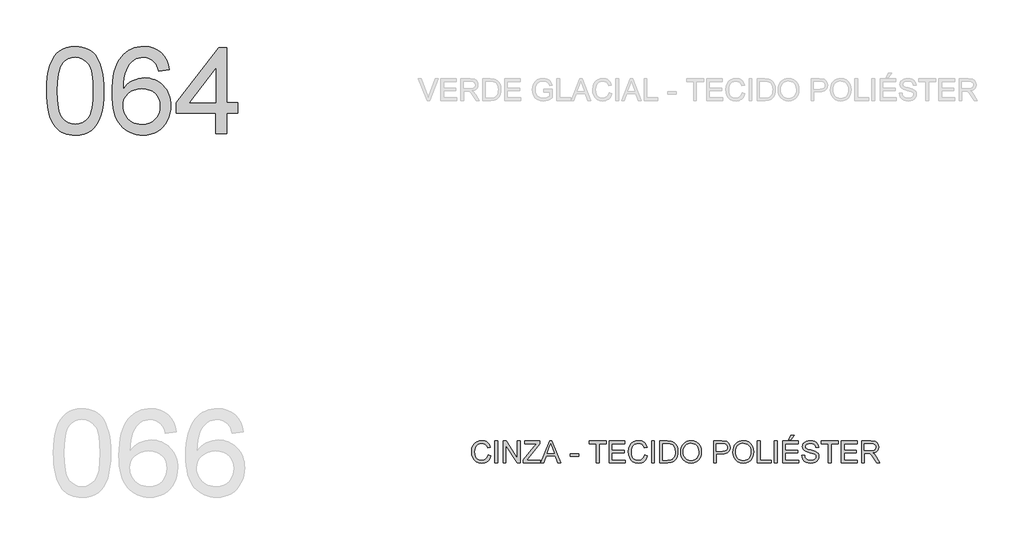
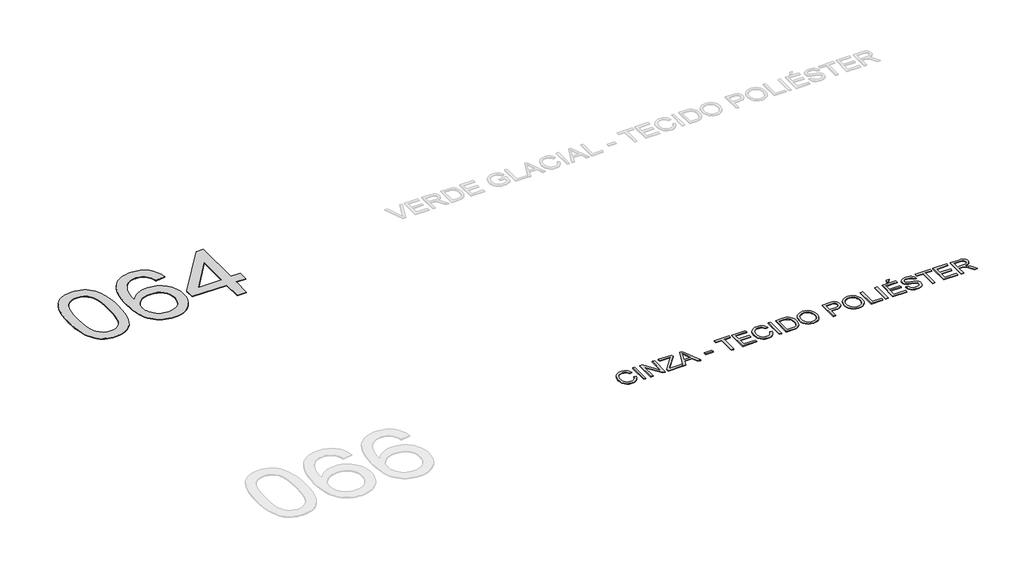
# One storey, part 9 of 67: 2 proxies.
"""IFC4 building model written with IfcOpenShell, lengths in millimetres."""

from ifc_helpers import new_model, si_unit, origin, origin_with_axes, place, context, project, spatial, polyline, outline, extrude, element, save

model = new_model("IFC4")

# Units and contexts
model_context = context("Model", 3, world=origin())
ifc_project = project(units=[si_unit("LENGTHUNIT", "METRE", prefix="MILLI")], contexts=[model_context])

# Site, building, storey
site = spatial("IfcSite", under=ifc_project)
building = spatial("IfcBuilding", under=site)
storey = spatial("IfcBuildingStorey", under=building, Name="Marelli - Linha COLAB - Planta Baixa", Elevation=0.0)

# Proxies
placement = place(None, origin())
element("IfcBuildingElementProxy", 1, Name="1200mm Arial", ObjectType="1200mm Arial", at=placement, inside=storey, context=model_context, shape_type="SweptSolid", body=[
    extrude(outline(polyline([(-25275.30917, -79895.792664), (-25272.540858, -79794.4319773), (-25264.2359219, -79702.8385576), (-25250.3943618, -79621.0124048), (-25231.0161777, -79548.953519), (-25206.1841431, -79486.073289), (-25175.9810313, -79431.7831035), (-25140.4068423, -79386.0829627), (-25099.4615763, -79348.9728664), (-25053.0072773, -79320.2596767), (-25000.9059898, -79299.7502555), (-24943.1577136, -79287.4446027), (-24879.7624488, -79283.3427185), (-24832.1217304, -79285.7707396), (-24786.9090332, -79293.0548031), (-24744.1243571, -79305.194909), (-24703.7677023, -79322.1910572), (-24666.8139558, -79343.7581391), (-24634.2380052, -79369.6110463), (-24606.0398502, -79399.7497788), (-24582.2194911, -79434.1743365), (-24561.5813111, -79472.7467637), (-24542.929694, -79515.3291046), (-24511.586148, -79612.5235278), (-24499.611589, -79669.6831928), (-24491.0583327, -79735.9479371), (-24485.9263788, -79811.3177609), (-24484.2157275, -79895.792664), (-24486.9564484, -79996.5095573), (-24495.178611, -80087.6431245), (-24508.8822153, -80169.1933658), (-24528.0672614, -80241.1602811), (-24552.706158, -80304.0681023), (-24582.771314, -80358.4410612), (-24618.2627295, -80404.2791578), (-24659.1804044, -80441.5823921), (-24705.6898857, -80470.4887199), (-24757.9567202, -80491.1360968), (-24815.9809078, -80503.524523), (-24879.7624488, -80507.6539984), (-24922.4367602, -80505.8605737), (-24962.7566269, -80500.4802995), (-25000.7220488, -80491.5131759), (-25036.3330259, -80478.9592028), (-25069.5895583, -80462.8183803), (-25100.4916459, -80443.0907083), (-25129.0392887, -80419.7761868), (-25155.2324867, -80392.8748159), (-25183.3754594, -80350.2786794), (-25207.7660357, -80302.0999336), (-25228.4042156, -80248.3385785), (-25245.2899992, -80188.9946142), (-25258.4233864, -80124.0680406), (-25267.8043773, -80053.5588577), (-25273.4329718, -79977.4670655), (-25275.30917, -79895.792664)]), holes=[polyline([(-25124.6247047, -79895.4983584), (-25120.2101208, -80026.4919399), (-25106.966369, -80132.5247279), (-25097.0335551, -80176.1808245), (-25084.8934493, -80213.5967226), (-25070.5460515, -80244.7724225), (-25053.9913617, -80269.7079239), (-25016.614551, -80307.884878), (-24975.1174619, -80335.1541309), (-24929.5000945, -80351.5156826), (-24879.7624488, -80356.9695332), (-24830.024803, -80351.4972885), (-24784.4074356, -80335.0805545), (-24742.9103465, -80307.7193311), (-24705.5335358, -80269.4136183), (-24688.9788461, -80244.418336), (-24674.6314482, -80213.2104465), (-24662.4913424, -80175.7899498), (-24652.5585285, -80132.1568459), (-24639.3147767, -80026.2528166), (-24634.9001928, -79895.4983584), (-24639.1676239, -79767.9720648), (-24651.9699173, -79663.8062779), (-24661.5716374, -79620.4835744), (-24673.3070731, -79583.0009976), (-24687.1762243, -79551.3585475), (-24703.1790911, -79525.5562241), (-24739.9305024, -79485.5122689), (-24781.905838, -79456.9094438), (-24829.105098, -79439.7477487), (-24881.5282823, -79434.0271837), (-24931.0084107, -79439.067167), (-24975.8532259, -79454.187117), (-25016.062728, -79479.3870337), (-25051.6369169, -79514.666917), (-25068.7434297, -79543.2145599), (-25083.5690741, -79577.2068562), (-25096.1138501, -79616.6438061), (-25106.3777578, -79661.5254095), (-25120.062968, -79767.6225769), (-25124.6247047, -79895.4983584)])]), origin_with_axes(), (0.0, 0.0, 1.0), 10.0),
    extrude(outline(polyline([(-23580.1089362, -79603.5472071), (-23730.7934014, -79622.3827652), (-23741.8666495, -79582.0812927), (-23755.0736131, -79547.7027202), (-23770.4142923, -79519.2470479), (-23787.8886871, -79496.7142757), (-23820.2806967, -79469.2886729), (-23856.2411618, -79449.6989567), (-23895.7700822, -79437.9451269), (-23938.8674579, -79434.0271837), (-23974.4048586, -79436.3080521), (-24008.9121898, -79443.1506572), (-24042.3894513, -79454.554999), (-24074.8366433, -79470.5210776), (-24104.4419469, -79496.6315022), (-24131.4536824, -79528.1681863), (-24155.8718498, -79565.1311297), (-24177.6964492, -79607.5203326), (-24195.7686522, -79658.1316981), (-24208.9296306, -79719.7611293), (-24217.1793843, -79792.4086263), (-24220.5179134, -79876.0741891), (-24191.7955266, -79838.2099347), (-24160.0749016, -79805.5512106), (-24125.3560383, -79778.0980167), (-24087.6389367, -79755.8503531), (-24047.9352724, -79738.6610669), (-24007.2567208, -79726.3830053), (-23965.6032819, -79719.0161683), (-23922.9749557, -79716.560556), (-23886.0763916, -79718.2390176), (-23850.575779, -79723.2744024), (-23816.4731181, -79731.6667104), (-23783.7684087, -79743.4159416), (-23752.4616509, -79758.5220961), (-23722.5528447, -79776.9851737), (-23694.0419901, -79798.8051745), (-23666.9290871, -79823.9820986), (-23642.1660303, -79851.81697), (-23620.7047144, -79881.6108131), (-23602.5451394, -79913.3636278), (-23587.6873053, -79947.0754142), (-23576.1312121, -79982.7461721), (-23567.8768599, -80020.3759017), (-23562.9242485, -80059.9646029), (-23561.273378, -80101.5122757), (-23564.3819809, -80156.4462547), (-23573.7077895, -80209.4120649), (-23589.2508038, -80260.4097065), (-23611.0110238, -80309.4391794), (-23638.2158973, -80354.6702707), (-23670.0928722, -80394.2727675), (-23706.6419484, -80428.2466698), (-23747.863126, -80456.5919775), (-23792.8734881, -80478.9316116), (-23840.790118, -80494.8884932), (-23891.6130156, -80504.4626221), (-23945.342181, -80507.6539984), (-23991.3435252, -80505.5386769), (-24035.1697672, -80499.1927125), (-24076.8209068, -80488.6161052), (-24116.2969442, -80473.8088549), (-24153.5978792, -80454.7709616), (-24188.723712, -80431.5024254), (-24221.6744424, -80404.0032463), (-24252.4500706, -80372.2734242), (-24280.2826428, -80335.6875598), (-24304.4042053, -80293.6202536), (-24324.8147583, -80246.0715057), (-24341.5143016, -80193.0413161), (-24354.5028353, -80134.5296848), (-24363.7803594, -80070.5366117), (-24369.3468738, -80001.062097), (-24371.2023786, -79926.1061404), (-24369.1422394, -79842.1784618), (-24362.9618219, -79764.1828803), (-24352.6611261, -79692.1193959), (-24338.2401519, -79625.9880088), (-24319.6988993, -79565.7887188), (-24297.0373684, -79511.521526), (-24270.2555591, -79463.1864303), (-24239.3534716, -79420.7834319), (-24209.3388993, -79388.5707647), (-24176.8319265, -79360.6531198), (-24141.8325532, -79337.0304971), (-24104.3407793, -79317.7028968), (-24064.356605, -79302.6703188), (-24021.8800301, -79291.9327631), (-23976.9110547, -79285.4902296), (-23929.4496788, -79283.3427185), (-23860.0487404, -79288.6586133), (-23797.2328897, -79304.6062978), (-23741.0021268, -79331.1857719), (-23691.3564515, -79368.3970358), (-23649.6386333, -79414.9892904), (-23617.1914413, -79469.7117372), (-23594.0148756, -79532.5643761), (-23580.1089362, -79603.5472071)]), holes=[polyline([(-24220.5179134, -80099.157831), (-24218.3382126, -80132.9202011), (-24211.7991101, -80165.9284131), (-24200.900606, -80198.182467), (-24185.6427003, -80229.6823629), (-24166.7703539, -80258.9473756), (-24145.028528, -80284.4967801), (-24120.4172225, -80306.3305766), (-24092.9364375, -80324.4487648), (-24062.7609168, -80338.676601), (-24030.0654045, -80348.8393411), (-23994.8499005, -80354.9369852), (-23957.1144049, -80356.9695332), (-23904.7372058, -80352.7572843), (-23857.6759016, -80340.1205378), (-23815.9304922, -80319.0592936), (-23779.5009776, -80289.5735517), (-23749.9508563, -80252.8589286), (-23728.8436268, -80210.1110407), (-23716.1792892, -80161.3298882), (-23711.9578433, -80106.5154709), (-23716.1241069, -80053.8439662), (-23728.6228976, -80007.0769676), (-23749.4542156, -79966.214475), (-23778.6180608, -79931.2564884), (-23815.15794, -79903.2514715), (-23858.1173599, -79883.247888), (-23907.4963208, -79871.2457379), (-23963.2948224, -79867.2450212), (-24014.9730456, -79871.2457379), (-24062.5861729, -79883.247888), (-24106.134204, -79903.2514715), (-24145.6171392, -79931.2564884), (-24178.3862279, -79965.7546225), (-24201.7927198, -80005.2375576), (-24215.836615, -80049.7052938), (-24220.5179134, -80099.157831)])]), origin_with_axes(), (0.0, 0.0, 1.0), 10.0),
    extrude(outline(polyline([(-22939.699959, -80488.8184403), (-22939.699959, -80206.285068), (-23485.9311454, -80206.285068), (-23485.9311454, -80055.6006027), (-22902.0288427, -79302.1782766), (-22789.0154938, -79302.1782766), (-22789.0154938, -80055.6006027), (-22638.3310285, -80055.6006027), (-22638.3310285, -80206.285068), (-22789.0154938, -80206.285068), (-22789.0154938, -80488.8184403), (-22939.699959, -80488.8184403)]), holes=[polyline([(-22939.699959, -80055.6006027), (-22939.699959, -79590.0091496), (-23300.5186199, -80055.6006027), (-22939.699959, -80055.6006027)])]), origin_with_axes(), (0.0, 0.0, 1.0), 10.0),
])
element("IfcBuildingElementProxy", 2, Name="300mm Arial", ObjectType="300mm Arial", at=placement, inside=storey, context=model_context, shape_type="SweptSolid", body=[
    extrude(outline(polyline([(-19185.6215867, -84923.4390831), (-19147.9504704, -84933.1511677), (-19155.4046793, -84956.5783531), (-19165.3328946, -84977.0486868), (-19177.7351164, -84994.5621691), (-19192.6113446, -85009.1187997), (-19209.6258869, -85020.5622291), (-19228.4430509, -85028.7361071), (-19249.0628367, -85033.640434), (-19271.4852444, -85035.2752096), (-19315.1804283, -85030.3271968), (-19349.8808975, -85015.4831583), (-19376.4787658, -84991.2581289), (-19395.8661469, -84958.1671434), (-19407.7027501, -84919.2636224), (-19411.6482845, -84877.6009865), (-19407.1877153, -84833.6574821), (-19393.8060077, -84795.7104543), (-19372.2021376, -84764.9647166), (-19343.0750806, -84742.6250824), (-19308.5309613, -84729.0226457), (-19270.675904, -84724.4885001), (-19229.371953, -84730.3562179), (-19211.4032168, -84737.6908652), (-19195.2233068, -84747.9593714), (-19181.0989374, -84760.8904235), (-19169.2968231, -84776.2127086), (-19152.6593599, -84814.0309777), (-19190.3304762, -84823.0072984), (-19203.390287, -84795.5357104), (-19221.2325638, -84776.6909552), (-19244.0780357, -84765.7924511), (-19272.1474319, -84762.1596164), (-19304.5026534, -84766.1879242), (-19331.0821276, -84778.2728478), (-19351.251258, -84797.1451941), (-19364.3754481, -84821.5357704), (-19371.5767382, -84849.1085259), (-19373.9771682, -84877.5274101), (-19371.1352798, -84912.3290468), (-19362.6096146, -84942.421794), (-19348.0782757, -84966.6560205), (-19327.2193666, -84983.8820949), (-19302.212588, -84994.1735937), (-19275.2376407, -84997.6040933), (-19243.7929272, -84992.931992), (-19217.5905321, -84978.9156879), (-19197.8076778, -84955.702334), (-19185.6215867, -84923.4390831)])), origin_with_axes(), (0.0, 0.0, 1.0), 10.0),
    extrude(outline(polyline([(-19091.4437959, -85030.5663201), (-19091.4437959, -84729.1973896), (-19053.7726796, -84729.1973896), (-19053.7726796, -85030.5663201), (-19091.4437959, -85030.5663201)])), origin_with_axes(), (0.0, 0.0, 1.0), 10.0),
    extrude(outline(polyline([(-18978.430447, -85030.5663201), (-18978.430447, -84729.1973896), (-18938.1105803, -84729.1973896), (-18780.6570864, -84967.9528045), (-18780.6570864, -84729.1973896), (-18742.9859701, -84729.1973896), (-18742.9859701, -85030.5663201), (-18783.3058368, -85030.5663201), (-18940.7593307, -84791.7373288), (-18940.7593307, -85030.5663201), (-18978.430447, -85030.5663201)])), origin_with_axes(), (0.0, 0.0, 1.0), 10.0),
    extrude(outline(polyline([(-18700.6059642, -85030.5663201), (-18700.6059642, -84991.4972522), (-18546.4634083, -84802.7737887), (-18517.1800014, -84766.8685059), (-18681.7704061, -84766.8685059), (-18681.7704061, -84729.1973896), (-18469.8703769, -84729.1973896), (-18469.8703769, -84766.8685059), (-18638.5810599, -84973.397458), (-18654.473562, -84992.8952038), (-18465.1614873, -84992.8952038), (-18465.1614873, -85030.5663201), (-18700.6059642, -85030.5663201)])), origin_with_axes(), (0.0, 0.0, 1.0), 10.0),
    extrude(outline(polyline([(-18457.8774238, -85030.5663201), (-18337.5800114, -84729.1973896), (-18305.5007014, -84729.1973896), (-18185.203289, -85030.5663201), (-18225.0081209, -85030.5663201), (-18259.515452, -84936.3885293), (-18383.6388372, -84936.3885293), (-18418.0725919, -85030.5663201), (-18457.8774238, -85030.5663201)]), holes=[polyline([(-18369.8064742, -84898.717413), (-18273.2742386, -84898.717413), (-18300.4239299, -84824.6259792), (-18321.5403564, -84766.8685059), (-18340.3023382, -84818.1512561), (-18369.8064742, -84898.717413)])]), origin_with_axes(), (0.0, 0.0, 1.0), 10.0),
    extrude(outline(polyline([(-18050.779208, -84941.0974188), (-18050.779208, -84903.4263025), (-17933.0569695, -84903.4263025), (-17933.0569695, -84941.0974188), (-18050.779208, -84941.0974188)])), origin_with_axes(), (0.0, 0.0, 1.0), 10.0),
    extrude(outline(polyline([(-17692.903603, -85030.5663201), (-17692.903603, -84766.8685059), (-17791.7902834, -84766.8685059), (-17791.7902834, -84729.1973896), (-17556.3458064, -84729.1973896), (-17556.3458064, -84766.8685059), (-17655.2324867, -84766.8685059), (-17655.2324867, -85030.5663201), (-17692.903603, -85030.5663201)])), origin_with_axes(), (0.0, 0.0, 1.0), 10.0),
    extrude(outline(polyline([(-17513.9658006, -85030.5663201), (-17513.9658006, -84729.1973896), (-17297.3568818, -84729.1973896), (-17297.3568818, -84766.8685059), (-17476.2946843, -84766.8685059), (-17476.2946843, -84856.3374072), (-17306.7746609, -84856.3374072), (-17306.7746609, -84894.0085235), (-17476.2946843, -84894.0085235), (-17476.2946843, -84992.8952038), (-17292.6479923, -84992.8952038), (-17292.6479923, -85030.5663201), (-17513.9658006, -85030.5663201)])), origin_with_axes(), (0.0, 0.0, 1.0), 10.0),
    extrude(outline(polyline([(-17024.2412886, -84923.4390831), (-16986.5701723, -84933.1511677), (-16994.0243812, -84956.5783531), (-17003.9525966, -84977.0486868), (-17016.3548183, -84994.5621691), (-17031.2310465, -85009.1187997), (-17048.2455888, -85020.5622291), (-17067.0627529, -85028.7361071), (-17087.6825387, -85033.640434), (-17110.1049463, -85035.2752096), (-17153.8001303, -85030.3271968), (-17188.5005995, -85015.4831583), (-17215.0984677, -84991.2581289), (-17234.4858489, -84958.1671434), (-17246.3224521, -84919.2636224), (-17250.2679865, -84877.6009865), (-17245.8074173, -84833.6574821), (-17232.4257097, -84795.7104543), (-17210.8218395, -84764.9647166), (-17181.6947826, -84742.6250824), (-17147.1506632, -84729.0226457), (-17109.2956059, -84724.4885001), (-17067.9916549, -84730.3562179), (-17050.0229187, -84737.6908652), (-17033.8430087, -84747.9593714), (-17019.7186393, -84760.8904235), (-17007.9165251, -84776.2127086), (-16991.2790618, -84814.0309777), (-17028.9501782, -84823.0072984), (-17042.009989, -84795.5357104), (-17059.8522657, -84776.6909552), (-17082.6977376, -84765.7924511), (-17110.7671339, -84762.1596164), (-17143.1223554, -84766.1879242), (-17169.7018295, -84778.2728478), (-17189.8709599, -84797.1451941), (-17202.9951501, -84821.5357704), (-17210.1964401, -84849.1085259), (-17212.5968701, -84877.5274101), (-17209.7549817, -84912.3290468), (-17201.2293165, -84942.421794), (-17186.6979777, -84966.6560205), (-17165.8390686, -84983.8820949), (-17140.8322899, -84994.1735937), (-17113.8573426, -84997.6040933), (-17082.4126291, -84992.931992), (-17056.210234, -84978.9156879), (-17036.4273797, -84955.702334), (-17024.2412886, -84923.4390831)])), origin_with_axes(), (0.0, 0.0, 1.0), 10.0),
    extrude(outline(polyline([(-16930.0634979, -85030.5663201), (-16930.0634979, -84729.1973896), (-16892.3923815, -84729.1973896), (-16892.3923815, -85030.5663201), (-16930.0634979, -85030.5663201)])), origin_with_axes(), (0.0, 0.0, 1.0), 10.0),
    extrude(outline(polyline([(-16817.0501489, -85030.5663201), (-16817.0501489, -84729.1973896), (-16713.0866971, -84729.1973896), (-16659.3023494, -84733.5383972), (-16635.2796551, -84741.9077126), (-16615.0093572, -84755.0962821), (-16594.1688422, -84778.0521186), (-16579.3248036, -84806.5997614), (-16570.4404535, -84840.1873876), (-16567.4790034, -84878.2631741), (-16569.4839603, -84910.6091985), (-16575.4988309, -84939.0740679), (-16584.6590926, -84963.3082943), (-16596.1002226, -84982.9623899), (-16609.2703981, -84998.477813), (-16623.6177959, -85010.2960221), (-16640.0897122, -85019.0608107), (-16659.6334432, -85025.4159721), (-16708.083502, -85030.5663201), (-16817.0501489, -85030.5663201)]), holes=[polyline([(-16779.3790326, -84992.8952038), (-16712.7188151, -84992.8952038), (-16685.1460596, -84991.5340404), (-16664.2319681, -84987.4505502), (-16648.4498305, -84980.8838566), (-16636.2729365, -84972.0730828), (-16623.1855345, -84955.7667134), (-16613.3538882, -84934.6594839), (-16607.2010618, -84908.6594239), (-16605.1501197, -84877.6745629), (-16609.1692305, -84836.6189322), (-16621.2265629, -84806.3054558), (-16639.0412485, -84785.4833349), (-16660.332419, -84772.9017706), (-16682.0006685, -84768.3768221), (-16713.7488847, -84766.8685059), (-16779.3790326, -84766.8685059), (-16779.3790326, -84992.8952038)])]), origin_with_axes(), (0.0, 0.0, 1.0), 10.0),
    extrude(outline(polyline([(-16529.8078871, -84883.8549804), (-16527.2970925, -84848.5061192), (-16519.7647086, -84817.213157), (-16507.2107355, -84789.9760937), (-16489.6351732, -84766.7949295), (-16468.0910839, -84748.2858666), (-16443.6315297, -84735.0651074), (-16416.2565108, -84727.1326519), (-16385.966027, -84724.4885001), (-16346.4371066, -84729.454907), (-16310.9916764, -84744.3541278), (-16281.5611168, -84768.1376988), (-16260.0768082, -84799.7571563), (-16246.943421, -84837.68579), (-16242.5656253, -84880.3968896), (-16247.1733473, -84923.6782064), (-16260.9965132, -84962.140269), (-16283.271768, -84993.8149087), (-16313.2357565, -85016.733957), (-16348.3776841, -85030.6398965), (-16386.1867562, -85035.2752096), (-16426.3226819, -85030.1524528), (-16461.9704472, -85014.7841825), (-16491.3274304, -84990.5591531), (-16512.5910097, -84958.8661192), (-16525.5036678, -84922.3998164), (-16529.8078871, -84883.8549804)]), holes=[polyline([(-16492.1367708, -84884.2228624), (-16490.2536748, -84909.1974513), (-16484.6043869, -84931.3669401), (-16475.1889071, -84950.7313286), (-16462.0072354, -84967.2906169), (-16445.9836752, -84980.5527628), (-16428.0425302, -84990.0257242), (-16408.1838002, -84995.709501), (-16386.4074854, -84997.6040933), (-16364.25869, -84995.6911069), (-16344.1654353, -84989.9521478), (-16326.1277212, -84980.3872159), (-16310.1455478, -84966.9963113), (-16297.0604451, -84950.0875351), (-16287.7139431, -84929.9689885), (-16282.106042, -84906.6406715), (-16280.2367416, -84880.102584), (-16283.4373149, -84846.7540812), (-16293.039035, -84817.9305269), (-16308.7935814, -84794.358488), (-16330.4526339, -84776.7645316), (-16356.5814526, -84765.8108452), (-16385.7452978, -84762.1596164), (-16406.7651553, -84763.9185522), (-16426.2674996, -84769.1953595), (-16444.2523306, -84777.9900385), (-16460.7196484, -84790.302589), (-16474.4646394, -84806.7262208), (-16484.2824902, -84827.8541437), (-16490.1732006, -84853.6863575), (-16492.1367708, -84884.2228624)])]), origin_with_axes(), (0.0, 0.0, 1.0), 10.0),
    extrude(outline(polyline([(-16073.0456019, -85030.5663201), (-16073.0456019, -84729.1973896), (-15961.3566282, -84729.1973896), (-15916.3278719, -84732.0668692), (-15896.2507121, -84737.4287493), (-15879.7236134, -84746.1567496), (-15866.4154822, -84758.6463433), (-15855.9952247, -84775.2930036), (-15849.2629842, -84794.9287051), (-15847.0189041, -84816.3854225), (-15848.534118, -84834.8852883), (-15853.0797599, -84851.9044291), (-15860.6558298, -84867.4428449), (-15871.2623275, -84881.5005356), (-15885.8235568, -84893.1531978), (-15905.2638209, -84901.476528), (-15929.5831201, -84906.470526), (-15958.7814542, -84908.1351921), (-16035.3744856, -84908.1351921), (-16035.3744856, -85030.5663201), (-16073.0456019, -85030.5663201)]), holes=[polyline([(-16035.3744856, -84870.4640758), (-15956.5741622, -84870.4640758), (-15923.1704771, -84867.005985), (-15901.0975573, -84856.6317127), (-15888.7919046, -84839.9850525), (-15884.6900204, -84817.7097977), (-15887.1088445, -84800.7872259), (-15894.3653168, -84786.5134045), (-15905.5581265, -84775.7712502), (-15919.7859627, -84769.4436799), (-15957.457079, -84766.8685059), (-16035.3744856, -84766.8685059), (-16035.3744856, -84870.4640758)])]), origin_with_axes(), (0.0, 0.0, 1.0), 10.0),
    extrude(outline(polyline([(-15809.3477877, -84883.8549804), (-15806.8369931, -84848.5061192), (-15799.3046093, -84817.213157), (-15786.7506362, -84789.9760937), (-15769.1750739, -84766.7949295), (-15747.6309845, -84748.2858666), (-15723.1714304, -84735.0651074), (-15695.7964114, -84727.1326519), (-15665.5059276, -84724.4885001), (-15625.9770072, -84729.454907), (-15590.531577, -84744.3541278), (-15561.1010174, -84768.1376988), (-15539.6167089, -84799.7571563), (-15526.4833217, -84837.68579), (-15522.1055259, -84880.3968896), (-15526.7132479, -84923.6782064), (-15540.5364139, -84962.140269), (-15562.8116687, -84993.8149087), (-15592.7756572, -85016.733957), (-15627.9175848, -85030.6398965), (-15665.7266568, -85035.2752096), (-15705.8625825, -85030.1524528), (-15741.5103478, -85014.7841825), (-15770.867331, -84990.5591531), (-15792.1309104, -84958.8661192), (-15805.0435684, -84922.3998164), (-15809.3477877, -84883.8549804)]), holes=[polyline([(-15771.6766714, -84884.2228624), (-15769.7935755, -84909.1974513), (-15764.1442876, -84931.3669401), (-15754.7288078, -84950.7313286), (-15741.547136, -84967.2906169), (-15725.5235759, -84980.5527628), (-15707.5824308, -84990.0257242), (-15687.7237009, -84995.709501), (-15665.947386, -84997.6040933), (-15643.7985907, -84995.6911069), (-15623.7053359, -84989.9521478), (-15605.6676219, -84980.3872159), (-15589.6854484, -84966.9963113), (-15576.6003457, -84950.0875351), (-15567.2538438, -84929.9689885), (-15561.6459426, -84906.6406715), (-15559.7766422, -84880.102584), (-15562.9772156, -84846.7540812), (-15572.5789356, -84817.9305269), (-15588.3334821, -84794.358488), (-15609.9925346, -84776.7645316), (-15636.1213533, -84765.8108452), (-15665.2851984, -84762.1596164), (-15686.3050559, -84763.9185522), (-15705.8074002, -84769.1953595), (-15723.7922312, -84777.9900385), (-15740.2595491, -84790.302589), (-15754.0045401, -84806.7262208), (-15763.8223908, -84827.8541437), (-15769.7131013, -84853.6863575), (-15771.6766714, -84884.2228624)])]), origin_with_axes(), (0.0, 0.0, 1.0), 10.0),
    extrude(outline(polyline([(-15470.307741, -85030.5663201), (-15470.307741, -84729.1973896), (-15432.6366247, -84729.1973896), (-15432.6366247, -84992.8952038), (-15281.9521595, -84992.8952038), (-15281.9521595, -85030.5663201), (-15470.307741, -85030.5663201)])), origin_with_axes(), (0.0, 0.0, 1.0), 10.0),
    extrude(outline(polyline([(-15234.8632641, -85030.5663201), (-15234.8632641, -84729.1973896), (-15197.1921478, -84729.1973896), (-15197.1921478, -85030.5663201), (-15234.8632641, -85030.5663201)])), origin_with_axes(), (0.0, 0.0, 1.0), 10.0),
    extrude(outline(polyline([(-15121.8499152, -85030.5663201), (-15121.8499152, -84729.1973896), (-14905.2409964, -84729.1973896), (-14905.2409964, -84766.8685059), (-15084.1787989, -84766.8685059), (-15084.1787989, -84856.3374072), (-14914.6587755, -84856.3374072), (-14914.6587755, -84894.0085235), (-15084.1787989, -84894.0085235), (-15084.1787989, -84992.8952038), (-14900.5321069, -84992.8952038), (-14900.5321069, -85030.5663201), (-15121.8499152, -85030.5663201)])), origin_with_axes(), (0.0, 0.0, 1.0), 10.0),
    extrude(outline(polyline([(-15037.0899035, -84710.3618315), (-15008.8365662, -84653.855157), (-14961.7476709, -84653.855157), (-15008.8365662, -84710.3618315), (-15037.0899035, -84710.3618315)])), origin_with_axes(), (0.0, 0.0, 1.0), 10.0),
    extrude(outline(polyline([(-14858.152101, -84926.9707502), (-14820.4809847, -84926.9707502), (-14816.1583713, -84947.8756446), (-14808.3408789, -84964.6786547), (-14796.1455907, -84978.0143771), (-14778.6895901, -84988.517408), (-14757.3524343, -84995.332422), (-14733.513681, -84997.6040933), (-14712.5260132, -84995.884245), (-14694.1503076, -84990.7247), (-14679.2602838, -84982.5577197), (-14668.7296617, -84971.8155654), (-14662.4664707, -84959.4823216), (-14660.3787404, -84946.5420724), (-14661.9422389, -84933.932917), (-14666.6327343, -84923.0344129), (-14676.160878, -84913.7361954), (-14692.2373212, -84905.9279001), (-14747.0885267, -84891.5437141), (-14783.0949769, -84882.0247675), (-14806.1335869, -84872.9656733), (-14824.8863716, -84860.2921386), (-14838.1761087, -84844.9330653), (-14846.0947686, -84827.2195472), (-14848.7343219, -84807.4826782), (-14845.4693692, -84785.4189555), (-14835.6745111, -84764.845155), (-14819.607265, -84747.4075484), (-14797.5251482, -84734.7524077), (-14771.0192505, -84727.054477), (-14741.6806613, -84724.4885001), (-14709.895657, -84727.1740386), (-14682.0837781, -84735.2306543), (-14659.2383062, -84748.4928003), (-14642.3525226, -84766.7949295), (-14631.6655507, -84788.9966079), (-14627.4165136, -84813.9574013), (-14665.0876299, -84813.9574013), (-14672.0038115, -84791.4798114), (-14686.4247857, -84775.2562154), (-14708.9575579, -84765.4337661), (-14740.2091334, -84762.1596164), (-14772.1964728, -84765.3969779), (-14794.1406339, -84775.1090626), (-14806.8325627, -84789.4012781), (-14811.0632056, -84806.3790322), (-14808.0649674, -84820.8551887), (-14799.0702526, -84832.4986539), (-14777.8066733, -84842.9097143), (-14737.560383, -84853.541504), (-14696.0265057, -84863.6398648), (-14670.9001655, -84872.4506385), (-14649.425054, -84886.1174547), (-14634.4430597, -84902.9848441), (-14625.641483, -84922.868866), (-14622.7076241, -84945.5855792), (-14626.0829414, -84968.8081301), (-14636.2088933, -84990.6511236), (-14652.6716126, -85009.4498935), (-14675.057232, -85023.539774), (-14701.976997, -85032.3413507), (-14732.0421531, -85035.2752096), (-14768.9499142, -85032.1114244), (-14799.32777, -85022.620069), (-14823.5252082, -85006.764355), (-14841.8917168, -84984.5074943), (-14853.6823348, -84957.3945912), (-14858.152101, -84926.9707502)])), origin_with_axes(), (0.0, 0.0, 1.0), 10.0),
    extrude(outline(polyline([(-14490.858717, -85030.5663201), (-14490.858717, -84766.8685059), (-14589.7453973, -84766.8685059), (-14589.7453973, -84729.1973896), (-14354.3009204, -84729.1973896), (-14354.3009204, -84766.8685059), (-14453.1876007, -84766.8685059), (-14453.1876007, -85030.5663201), (-14490.858717, -85030.5663201)])), origin_with_axes(), (0.0, 0.0, 1.0), 10.0),
    extrude(outline(polyline([(-14311.9209146, -85030.5663201), (-14311.9209146, -84729.1973896), (-14095.3119958, -84729.1973896), (-14095.3119958, -84766.8685059), (-14274.2497983, -84766.8685059), (-14274.2497983, -84856.3374072), (-14104.7297749, -84856.3374072), (-14104.7297749, -84894.0085235), (-14274.2497983, -84894.0085235), (-14274.2497983, -84992.8952038), (-14090.6031063, -84992.8952038), (-14090.6031063, -85030.5663201), (-14311.9209146, -85030.5663201)])), origin_with_axes(), (0.0, 0.0, 1.0), 10.0),
    extrude(outline(polyline([(-14034.0964318, -85030.5663201), (-14034.0964318, -84729.1973896), (-13904.2340875, -84729.1973896), (-13869.3312832, -84731.2299376), (-13843.9382285, -84737.3275817), (-13825.3785819, -84748.5847708), (-13810.9760017, -84766.0959537), (-13801.7329666, -84787.8101885), (-13798.6519549, -84811.6765329), (-13803.7563176, -84841.3646099), (-13819.0694056, -84865.9759154), (-13830.6691848, -84876.0052983), (-13845.0510715, -84884.0205273), (-13882.1611678, -84894.0085235), (-13860.7504357, -84910.1217548), (-13830.2162301, -84948.8965171), (-13779.9635496, -85030.5663201), (-13823.741507, -85030.5663201), (-13862.9577277, -84968.0999573), (-13891.2846413, -84926.750021), (-13911.1870572, -84907.2154871), (-13929.1029104, -84900.0417882), (-13950.9551009, -84898.717413), (-13996.4253155, -84898.717413), (-13996.4253155, -85030.5663201), (-14034.0964318, -85030.5663201)]), holes=[polyline([(-13996.4253155, -84861.0462967), (-13912.1067622, -84861.0462967), (-13887.8909299, -84859.7127245), (-13869.101357, -84855.7120078), (-13854.9562943, -84848.7774322), (-13844.6739925, -84838.6422832), (-13838.4108015, -84826.3826157), (-13836.3230712, -84813.0744845), (-13840.3053938, -84794.6987789), (-13852.2523616, -84779.8915286), (-13872.8077681, -84770.1242616), (-13902.6154067, -84766.8685059), (-13996.4253155, -84766.8685059), (-13996.4253155, -84861.0462967)])]), origin_with_axes(), (0.0, 0.0, 1.0), 10.0),
])

save(model, "model.ifc")
